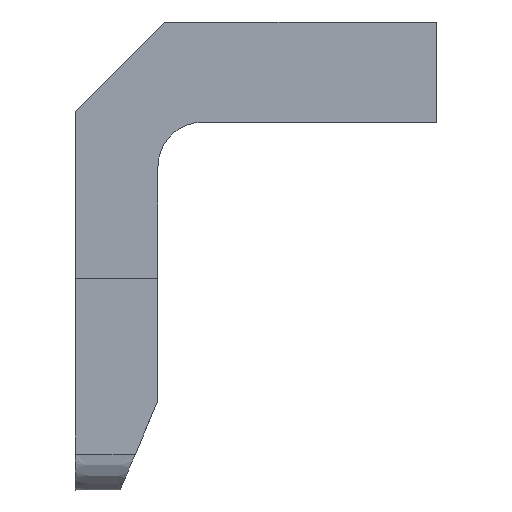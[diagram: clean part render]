
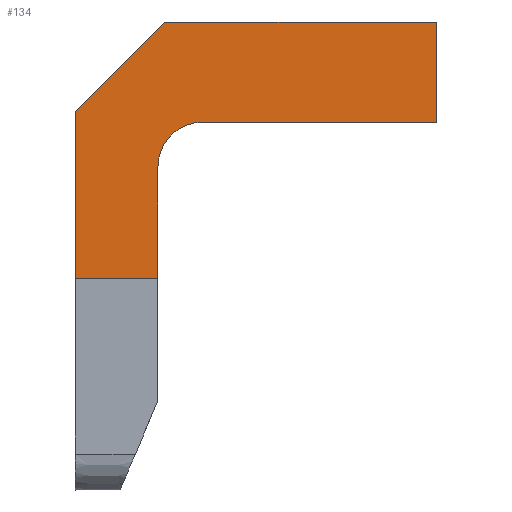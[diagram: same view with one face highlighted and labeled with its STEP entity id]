
A CAD part, front view. The second image highlights one B-rep face of the part: STEP entity #134.
In plain terms, the highlighted planar face has unit normal (0, -1, 0).
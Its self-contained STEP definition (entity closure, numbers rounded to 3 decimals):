
#134=ADVANCED_FACE('',(#251),#253,.F.);
#251=FACE_BOUND('',#252,.T.);
#252=EDGE_LOOP('',(#474,#475,#476,#477,#478,#479,#480,#481));
#253=PLANE('',#254);
#254=AXIS2_PLACEMENT_3D('',#255,#256,#257);
#255=CARTESIAN_POINT('',(0.,0.,0.));
#256=DIRECTION('',(0.,1.,0.));
#257=DIRECTION('',(1.,0.,0.));
#474=ORIENTED_EDGE('',*,*,#530,.F.);
#475=ORIENTED_EDGE('',*,*,#513,.F.);
#476=ORIENTED_EDGE('',*,*,#514,.F.);
#477=ORIENTED_EDGE('',*,*,#516,.F.);
#478=ORIENTED_EDGE('',*,*,#518,.F.);
#479=ORIENTED_EDGE('',*,*,#521,.F.);
#480=ORIENTED_EDGE('',*,*,#523,.F.);
#481=ORIENTED_EDGE('',*,*,#525,.F.);
#513=EDGE_CURVE('',#556,#554,#558,.T.);
#514=EDGE_CURVE('',#559,#556,#560,.T.);
#516=EDGE_CURVE('',#562,#559,#563,.T.);
#518=EDGE_CURVE('',#565,#562,#566,.T.);
#521=EDGE_CURVE('',#568,#565,#570,.T.);
#523=EDGE_CURVE('',#571,#568,#573,.F.);
#525=EDGE_CURVE('',#574,#571,#576,.T.);
#530=EDGE_CURVE('',#554,#574,#584,.T.);
#554=VERTEX_POINT('',#628);
#556=VERTEX_POINT('',#632);
#558=LINE('',#636,#637);
#559=VERTEX_POINT('',#639);
#560=CIRCLE('',#640,2.);
#562=VERTEX_POINT('',#647);
#563=LINE('',#648,#649);
#565=VERTEX_POINT('',#654);
#566=LINE('',#655,#656);
#568=VERTEX_POINT('',#661);
#570=LINE('',#665,#666);
#571=VERTEX_POINT('',#668);
#573=LINE('',#672,#673);
#574=VERTEX_POINT('',#675);
#576=LINE('',#679,#680);
#584=LINE('',#697,#698);
#628=CARTESIAN_POINT('',(3.7,0.,-11.5));
#632=CARTESIAN_POINT('',(3.7,0.,-6.5));
#636=CARTESIAN_POINT('',(3.7,0.,-6.5));
#637=VECTOR('',#638,1.);
#638=DIRECTION('',(0.,0.,-1.));
#639=CARTESIAN_POINT('',(5.7,0.,-4.5));
#640=AXIS2_PLACEMENT_3D('',#641,#642,#643);
#641=CARTESIAN_POINT('',(5.7,0.,-6.5));
#642=DIRECTION('',(0.,-1.,0.));
#643=DIRECTION('',(0.,0.,1.));
#647=CARTESIAN_POINT('',(16.2,0.,-4.5));
#648=CARTESIAN_POINT('',(16.2,0.,-4.5));
#649=VECTOR('',#650,1.);
#650=DIRECTION('',(-1.,0.,0.));
#654=CARTESIAN_POINT('',(16.2,0.,0.));
#655=CARTESIAN_POINT('',(16.2,0.,0.));
#656=VECTOR('',#657,1.);
#657=DIRECTION('',(0.,0.,-1.));
#661=CARTESIAN_POINT('',(4.,0.,0.));
#665=CARTESIAN_POINT('',(4.,0.,0.));
#666=VECTOR('',#667,1.);
#667=DIRECTION('',(1.,0.,0.));
#668=CARTESIAN_POINT('',(0.,0.,-4.));
#672=CARTESIAN_POINT('',(4.,0.,0.));
#673=VECTOR('',#674,1.);
#674=DIRECTION('',(-0.707,0.,-0.707));
#675=CARTESIAN_POINT('',(0.,0.,-11.5));
#679=CARTESIAN_POINT('',(0.,0.,-11.5));
#680=VECTOR('',#681,1.);
#681=DIRECTION('',(0.,0.,1.));
#697=CARTESIAN_POINT('',(3.7,0.,-11.5));
#698=VECTOR('',#699,1.);
#699=DIRECTION('',(-1.,0.,0.));
